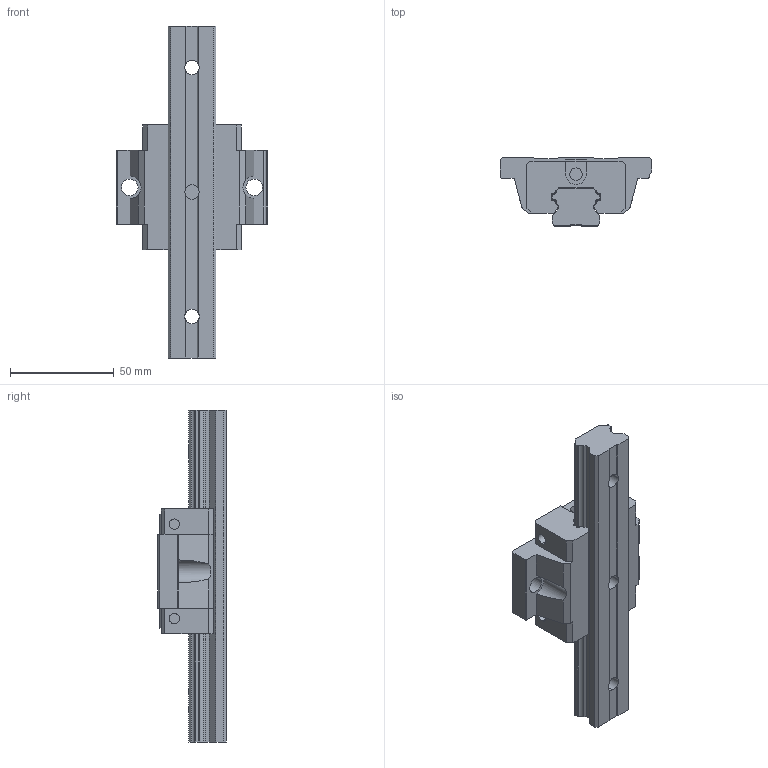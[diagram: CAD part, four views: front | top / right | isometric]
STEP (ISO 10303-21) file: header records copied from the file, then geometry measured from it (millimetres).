
FILE_DESCRIPTION((''),'2;1');
FILE_NAME('QEW25SA_ASM','2008-07-11T',('brianyu'),(''),'PRO/ENGINEER BY PARAMETRIC TECHNOLOGY CORPORATION, 2004360','PRO/ENGINEER BY PARAMETRIC TECHNOLOGY CORPORATION, 2004360','');
FILE_SCHEMA(('CONFIG_CONTROL_DESIGN'));
Length unit declared in the file: millimetre
Products named in the file (4): PRT0001; QEW25SA_BLOCK; QEW25SA_ASM_ASM; QEW25SA_ASM
Assembly tree (3 placements, depth 3):
  QEW25SA_ASM
    QEW25SA_ASM_ASM
      PRT0001
      QEW25SA_BLOCK
Bounding box: 73 x 33 x 160 mm (x, y, z)
Volume: 123469.8 mm3; surface area: 31380.8 mm2
Topology: 2 solids, 4 shells, 179 faces, 521 edges, 360 vertices
Faces by surface type: plane 117, cylinder 62
Entity records: 6147 total; most frequent: CARTESIAN_POINT 1131, ORIENTED_EDGE 1042, DIRECTION 1019, EDGE_CURVE 521, VECTOR 363, LINE 363, VERTEX_POINT 360, AXIS2_PLACEMENT_3D 328
